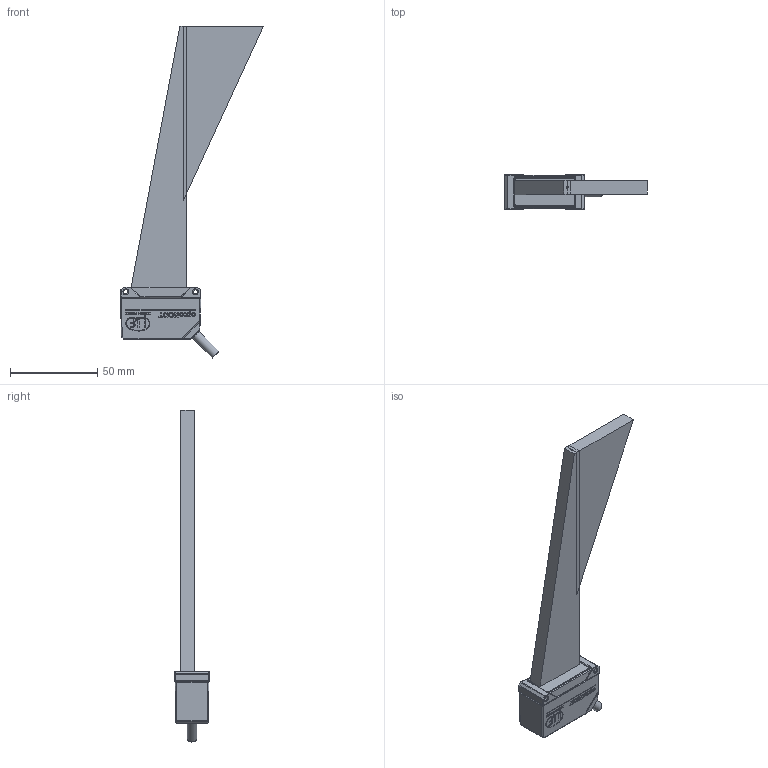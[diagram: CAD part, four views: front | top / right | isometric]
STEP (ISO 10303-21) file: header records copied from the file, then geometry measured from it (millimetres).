
FILE_DESCRIPTION (( 'STEP AP214' ), '1' );
FILE_NAME ('ILD1x20-100_1.STEP', '2025-11-05T10:00:21', ( '' ), ( '' ), 'SwSTEP 2.0', 'SolidWorks 2022', '' );
FILE_SCHEMA (( 'AUTOMOTIVE_DESIGN' ));
Length unit declared in the file: millimetre
Products named in the file (1): ILD1x20-100_1
Bounding box: 81.99 x 20 x 190.71 mm (x, y, z)
Volume: 65378.3 mm3; surface area: 24768 mm2
Topology: 10 solids, 10 shells, 2119 faces, 5579 edges, 3599 vertices
Faces by surface type: bspline 1001, plane 905, cylinder 144, torus 26, cone 23, sphere 20
Full cylindrical faces by diameter (mm): 0.7 x1, 0.8 x1, 1.2 x1, 1.6 x2, 2.4 x1, 2.5 x2, 3 x2, 5.4 x1, 7.5 x1, 8 x1
Entity records: 87510 total; most frequent: CARTESIAN_POINT 41456, ORIENTED_EDGE 10958, DIRECTION 6000, EDGE_CURVE 5479, VERTEX_POINT 3578, VECTOR 3100, LINE 3100, EDGE_LOOP 2327
